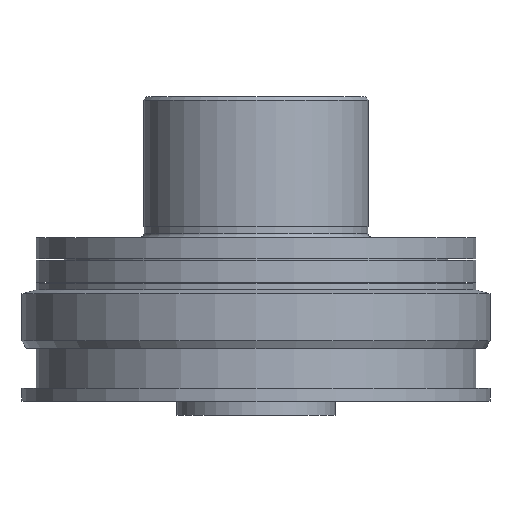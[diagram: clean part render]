
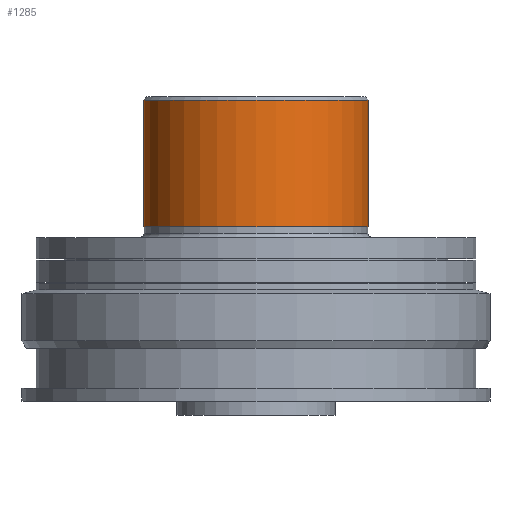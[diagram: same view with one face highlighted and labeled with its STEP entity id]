
A CAD part, front view. The second image highlights one B-rep face of the part: STEP entity #1285.
In plain terms, the highlighted cylindrical face has radius 32 mm (diameter 64 mm), a partial arc.
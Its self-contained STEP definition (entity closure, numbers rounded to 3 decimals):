
#237 = CIRCLE ( 'NONE', #3481, 32. ) ;
#319 = CIRCLE ( 'NONE', #3527, 32. ) ;
#1285 = ADVANCED_FACE ( 'NONE', ( #5984 ), #5992, .T. ) ;
#2148 = EDGE_CURVE ( 'NONE', #8546, #8541, #237, .T. ) ;
#2213 = EDGE_CURVE ( 'NONE', #2279, #2265, #319, .T. ) ;
#2265 = VERTEX_POINT ( 'NONE', #5430 ) ;
#2279 = VERTEX_POINT ( 'NONE', #5452 ) ;
#2995 = AXIS2_PLACEMENT_3D ( 'NONE', #7188, #7189, #7197 ) ;
#3481 = AXIS2_PLACEMENT_3D ( 'NONE', #7597, #7598, #7599 ) ;
#3527 = AXIS2_PLACEMENT_3D ( 'NONE', #5402, #5404, #5406 ) ;
#4866 = CARTESIAN_POINT ( 'NONE',  ( 32., 0., -138.044 ) ) ;
#4867 = DIRECTION ( 'NONE',  ( 0., 0., 1. ) ) ;
#5050 = DIRECTION ( 'NONE',  ( 0., 0., 1. ) ) ;
#5062 = CARTESIAN_POINT ( 'NONE',  ( -32., 0., -138.044 ) ) ;
#5172 = CARTESIAN_POINT ( 'NONE',  ( -32., 0., 85.5 ) ) ;
#5177 = CARTESIAN_POINT ( 'NONE',  ( 32., 0., 85.5 ) ) ;
#5402 = CARTESIAN_POINT ( 'NONE',  ( 0., 0., 49.5 ) ) ;
#5404 = DIRECTION ( 'NONE',  ( 0., 0., -1. ) ) ;
#5406 = DIRECTION ( 'NONE',  ( 1., 0., 0. ) ) ;
#5430 = CARTESIAN_POINT ( 'NONE',  ( -32., 0., 49.5 ) ) ;
#5452 = CARTESIAN_POINT ( 'NONE',  ( 32., 0., 49.5 ) ) ;
#5984 = FACE_OUTER_BOUND ( 'NONE', #8832, .T. ) ;
#5992 = CYLINDRICAL_SURFACE ( 'NONE', #2995, 32. ) ;
#6212 = LINE ( 'NONE', #4866, #6215 ) ;
#6215 = VECTOR ( 'NONE', #4867, 1000. ) ;
#6301 = LINE ( 'NONE', #5062, #6304 ) ;
#6304 = VECTOR ( 'NONE', #5050, 1000. ) ;
#7188 = CARTESIAN_POINT ( 'NONE',  ( 0., 0., -138.044 ) ) ;
#7189 = DIRECTION ( 'NONE',  ( 0., 0., 1. ) ) ;
#7197 = DIRECTION ( 'NONE',  ( 1., 0., 0. ) ) ;
#7597 = CARTESIAN_POINT ( 'NONE',  ( 0., 0., 85.5 ) ) ;
#7598 = DIRECTION ( 'NONE',  ( 0., 0., -1. ) ) ;
#7599 = DIRECTION ( 'NONE',  ( 1., 0., 0. ) ) ;
#7771 = EDGE_CURVE ( 'NONE', #2279, #8546, #6212, .T. ) ;
#7838 = EDGE_CURVE ( 'NONE', #2265, #8541, #6301, .T. ) ;
#8226 = ORIENTED_EDGE ( 'NONE', *, *, #7771, .T. ) ;
#8250 = ORIENTED_EDGE ( 'NONE', *, *, #2148, .T. ) ;
#8289 = ORIENTED_EDGE ( 'NONE', *, *, #7838, .F. ) ;
#8314 = ORIENTED_EDGE ( 'NONE', *, *, #2213, .F. ) ;
#8541 = VERTEX_POINT ( 'NONE', #5172 ) ;
#8546 = VERTEX_POINT ( 'NONE', #5177 ) ;
#8832 = EDGE_LOOP ( 'NONE', ( #8289, #8314, #8226, #8250 ) ) ;
